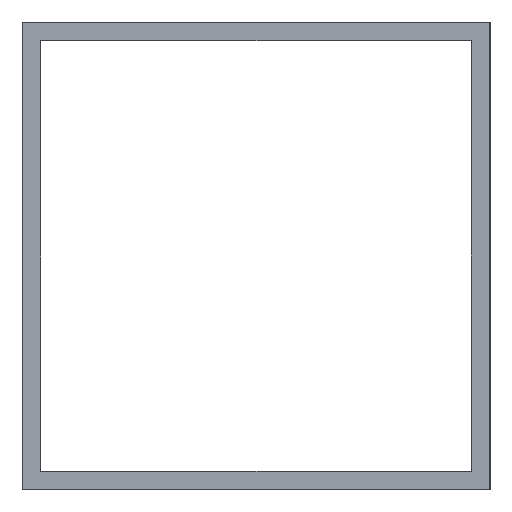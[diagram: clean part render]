
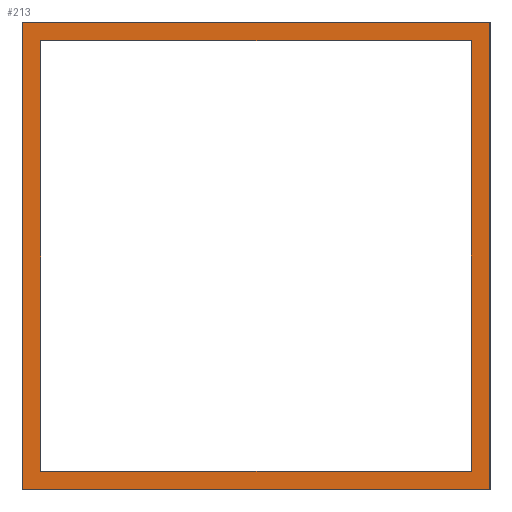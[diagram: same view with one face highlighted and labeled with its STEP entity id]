
A CAD part, left-side view. The second image highlights one B-rep face of the part: STEP entity #213.
In plain terms, the highlighted planar face has unit normal (-1, 0, 0).
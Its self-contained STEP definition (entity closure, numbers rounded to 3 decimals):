
#27=CARTESIAN_POINT('',(-617.0,3.537,30.0));
#28=VERTEX_POINT('',#27);
#45=CARTESIAN_POINT('',(-617.0,3.537,130.0));
#46=VERTEX_POINT('',#45);
#53=CARTESIAN_POINT('',(-617.0,3.537,30.0));
#54=DIRECTION('',(0.0,0.0,1.0));
#55=VECTOR('',#54,1.);
#56=LINE('',#53,#55);
#57=EDGE_CURVE('',#28,#46,#56,.T.);
#132=CARTESIAN_POINT('',(-617.0,103.537,30.0));
#133=VERTEX_POINT('',#132);
#140=CARTESIAN_POINT('',(-617.0,103.537,130.0));
#141=VERTEX_POINT('',#140);
#142=CARTESIAN_POINT('',(-617.0,103.537,30.0));
#143=DIRECTION('',(0.0,0.0,1.0));
#144=VECTOR('',#143,1.);
#145=LINE('',#142,#144);
#146=EDGE_CURVE('',#133,#141,#145,.T.);
#158=CARTESIAN_POINT('',(-617.0,103.537,30.0));
#159=DIRECTION('',(-1.0,0.0,0.0));
#160=DIRECTION('',(0.0,-1.0,0.0));
#161=AXIS2_PLACEMENT_3D('',#158,#159,#160);
#162=PLANE('',#161);
#163=CARTESIAN_POINT('',(-617.0,103.537,30.0));
#164=DIRECTION('',(0.,-1.0,0.0));
#165=VECTOR('',#164,1.);
#166=LINE('',#163,#165);
#167=EDGE_CURVE('',#133,#28,#166,.T.);
#168=ORIENTED_EDGE('',*,*,#167,.T.);
#169=ORIENTED_EDGE('',*,*,#57,.T.);
#170=CARTESIAN_POINT('',(-617.0,103.537,130.0));
#171=DIRECTION('',(0.,-1.0,0.0));
#172=VECTOR('',#171,1.);
#173=LINE('',#170,#172);
#174=EDGE_CURVE('',#141,#46,#173,.T.);
#175=ORIENTED_EDGE('',*,*,#174,.F.);
#176=ORIENTED_EDGE('',*,*,#146,.F.);
#177=EDGE_LOOP('',(#168,#169,#175,#176));
#178=FACE_OUTER_BOUND('',#177,.T.);
#179=CARTESIAN_POINT('',(-617.0,7.537,34.0));
#180=VERTEX_POINT('',#179);
#181=CARTESIAN_POINT('',(-617.0,99.537,34.));
#182=VERTEX_POINT('',#181);
#183=CARTESIAN_POINT('',(-617.0,7.537,34.0));
#184=DIRECTION('',(0.0,1.0,0.0));
#185=VECTOR('',#184,1.);
#186=LINE('',#183,#185);
#187=EDGE_CURVE('',#180,#182,#186,.T.);
#188=ORIENTED_EDGE('',*,*,#187,.T.);
#189=CARTESIAN_POINT('',(-617.0,99.537,126.0));
#190=VERTEX_POINT('',#189);
#191=CARTESIAN_POINT('',(-617.0,99.537,126.0));
#192=DIRECTION('',(0.0,0.0,-1.0));
#193=VECTOR('',#192,1.);
#194=LINE('',#191,#193);
#195=EDGE_CURVE('',#190,#182,#194,.T.);
#196=ORIENTED_EDGE('',*,*,#195,.F.);
#197=CARTESIAN_POINT('',(-617.0,7.537,126.));
#198=VERTEX_POINT('',#197);
#199=CARTESIAN_POINT('',(-617.0,7.537,126.0));
#200=DIRECTION('',(0.0,1.0,0.0));
#201=VECTOR('',#200,1.);
#202=LINE('',#199,#201);
#203=EDGE_CURVE('',#198,#190,#202,.T.);
#204=ORIENTED_EDGE('',*,*,#203,.F.);
#205=CARTESIAN_POINT('',(-617.0,7.537,34.0));
#206=DIRECTION('',(0.0,0.0,1.0));
#207=VECTOR('',#206,1.);
#208=LINE('',#205,#207);
#209=EDGE_CURVE('',#180,#198,#208,.T.);
#210=ORIENTED_EDGE('',*,*,#209,.F.);
#211=EDGE_LOOP('',(#188,#196,#204,#210));
#212=FACE_BOUND('',#211,.T.);
#213=ADVANCED_FACE('',(#178,#212),#162,.T.);
